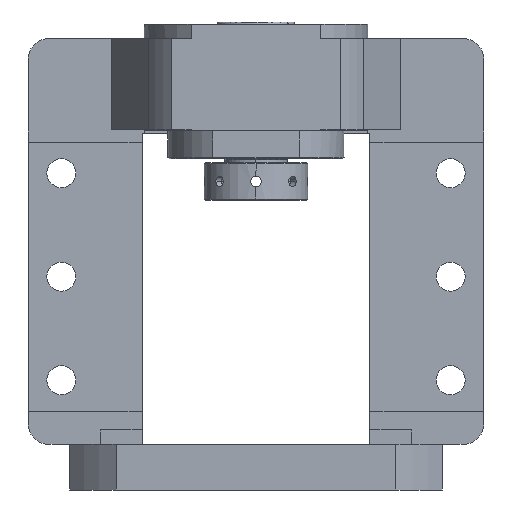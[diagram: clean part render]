
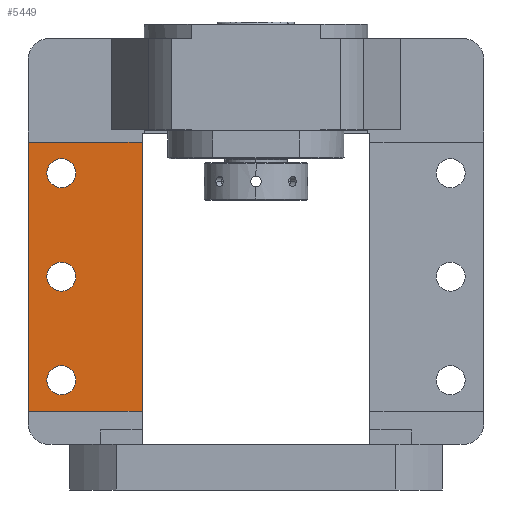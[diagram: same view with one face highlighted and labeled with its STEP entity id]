
A CAD part, front view. The second image highlights one B-rep face of the part: STEP entity #5449.
In plain terms, the highlighted planar face has unit normal (0, -1, 0).
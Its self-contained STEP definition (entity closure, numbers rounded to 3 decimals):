
#104 = CARTESIAN_POINT ( 'NONE',  ( -55., 0., 225. ) ) ;
#266 = CIRCLE ( 'NONE', #5236, 7. ) ;
#300 = CIRCLE ( 'NONE', #850, 7. ) ;
#307 = ORIENTED_EDGE ( 'NONE', *, *, #8331, .F. ) ;
#334 = CARTESIAN_POINT ( 'NONE',  ( -55., 0., 168. ) ) ;
#850 = AXIS2_PLACEMENT_3D ( 'NONE', #12516, #12466, #12363 ) ;
#938 = VERTEX_POINT ( 'NONE', #1914 ) ;
#1258 = CARTESIAN_POINT ( 'NONE',  ( -94., 0., 153. ) ) ;
#1493 = VERTEX_POINT ( 'NONE', #14557 ) ;
#1576 = EDGE_CURVE ( 'NONE', #12386, #8646, #300, .T. ) ;
#1724 = CARTESIAN_POINT ( 'NONE',  ( -110., 0., 168. ) ) ;
#1914 = CARTESIAN_POINT ( 'NONE',  ( -94., 0., 146. ) ) ;
#1949 = EDGE_LOOP ( 'NONE', ( #307, #7253, #12694, #6337 ) ) ;
#2224 = VERTEX_POINT ( 'NONE', #334 ) ;
#2395 = DIRECTION ( 'NONE',  ( 0., 0., -1. ) ) ;
#2596 = VECTOR ( 'NONE', #4661, 1000. ) ;
#2800 = CARTESIAN_POINT ( 'NONE',  ( -94., 0., 53. ) ) ;
#2956 = LINE ( 'NONE', #1724, #14771 ) ;
#2988 = CIRCLE ( 'NONE', #10348, 7. ) ;
#3326 = FACE_BOUND ( 'NONE', #5907, .T. ) ;
#3374 = CARTESIAN_POINT ( 'NONE',  ( -110., 0., 38. ) ) ;
#3986 = EDGE_LOOP ( 'NONE', ( #8921, #13646 ) ) ;
#4030 = FACE_OUTER_BOUND ( 'NONE', #1949, .T. ) ;
#4192 = EDGE_CURVE ( 'NONE', #14730, #8742, #2988, .T. ) ;
#4229 = CIRCLE ( 'NONE', #14183, 7. ) ;
#4295 = LINE ( 'NONE', #13858, #10012 ) ;
#4311 = EDGE_CURVE ( 'NONE', #8646, #12386, #4229, .T. ) ;
#4327 = DIRECTION ( 'NONE',  ( 0., 0., -1. ) ) ;
#4382 = CARTESIAN_POINT ( 'NONE',  ( -94., 0., 53. ) ) ;
#4661 = DIRECTION ( 'NONE',  ( 0., 0., -1. ) ) ;
#5049 = CARTESIAN_POINT ( 'NONE',  ( -110., 0., 38. ) ) ;
#5188 = DIRECTION ( 'NONE',  ( 1., 0., 0. ) ) ;
#5236 = AXIS2_PLACEMENT_3D ( 'NONE', #1258, #9250, #2395 ) ;
#5449 = ADVANCED_FACE ( 'NONE', ( #6371, #9742, #3326, #4030 ), #11097, .F. ) ;
#5543 = DIRECTION ( 'NONE',  ( 0., 0., -1. ) ) ;
#5636 = DIRECTION ( 'NONE',  ( 0., 1., 0. ) ) ;
#5694 = AXIS2_PLACEMENT_3D ( 'NONE', #12697, #5864, #13836 ) ;
#5743 = CARTESIAN_POINT ( 'NONE',  ( -94., 0., 110. ) ) ;
#5793 = AXIS2_PLACEMENT_3D ( 'NONE', #4382, #12380, #5543 ) ;
#5841 = CARTESIAN_POINT ( 'NONE',  ( -94., 0., 46. ) ) ;
#5864 = DIRECTION ( 'NONE',  ( 0., 1., 0. ) ) ;
#5907 = EDGE_LOOP ( 'NONE', ( #10101, #9785 ) ) ;
#6337 = ORIENTED_EDGE ( 'NONE', *, *, #9479, .F. ) ;
#6371 = FACE_BOUND ( 'NONE', #3986, .T. ) ;
#6571 = DIRECTION ( 'NONE',  ( 0., 0., 1. ) ) ;
#6994 = VERTEX_POINT ( 'NONE', #13749 ) ;
#7253 = ORIENTED_EDGE ( 'NONE', *, *, #13648, .T. ) ;
#7362 = VERTEX_POINT ( 'NONE', #5049 ) ;
#8046 = VERTEX_POINT ( 'NONE', #11347 ) ;
#8331 = EDGE_CURVE ( 'NONE', #1493, #2224, #2956, .T. ) ;
#8441 = CIRCLE ( 'NONE', #5694, 7. ) ;
#8640 = AXIS2_PLACEMENT_3D ( 'NONE', #9888, #14503, #6571 ) ;
#8646 = VERTEX_POINT ( 'NONE', #5743 ) ;
#8742 = VERTEX_POINT ( 'NONE', #5841 ) ;
#8921 = ORIENTED_EDGE ( 'NONE', *, *, #1576, .T. ) ;
#8937 = CARTESIAN_POINT ( 'NONE',  ( -94., 0., 60. ) ) ;
#9241 = EDGE_CURVE ( 'NONE', #6994, #7362, #13155, .T. ) ;
#9250 = DIRECTION ( 'NONE',  ( 0., 1., 0. ) ) ;
#9351 = EDGE_CURVE ( 'NONE', #8046, #938, #266, .T. ) ;
#9479 = EDGE_CURVE ( 'NONE', #2224, #6994, #10993, .T. ) ;
#9742 = FACE_BOUND ( 'NONE', #10689, .T. ) ;
#9746 = VECTOR ( 'NONE', #11364, 1000. ) ;
#9785 = ORIENTED_EDGE ( 'NONE', *, *, #9351, .T. ) ;
#9888 = CARTESIAN_POINT ( 'NONE',  ( -110., 0., 225. ) ) ;
#10012 = VECTOR ( 'NONE', #12718, 1000. ) ;
#10101 = ORIENTED_EDGE ( 'NONE', *, *, #11730, .T. ) ;
#10234 = ORIENTED_EDGE ( 'NONE', *, *, #4192, .T. ) ;
#10348 = AXIS2_PLACEMENT_3D ( 'NONE', #2800, #11174, #4327 ) ;
#10689 = EDGE_LOOP ( 'NONE', ( #11782, #10234 ) ) ;
#10993 = LINE ( 'NONE', #104, #2596 ) ;
#11097 = PLANE ( 'NONE',  #8640 ) ;
#11174 = DIRECTION ( 'NONE',  ( 0., 1., 0. ) ) ;
#11347 = CARTESIAN_POINT ( 'NONE',  ( -94., 0., 160. ) ) ;
#11364 = DIRECTION ( 'NONE',  ( -1., 0., 0. ) ) ;
#11730 = EDGE_CURVE ( 'NONE', #938, #8046, #8441, .T. ) ;
#11782 = ORIENTED_EDGE ( 'NONE', *, *, #13449, .T. ) ;
#12363 = DIRECTION ( 'NONE',  ( 0., 0., -1. ) ) ;
#12380 = DIRECTION ( 'NONE',  ( 0., 1., 0. ) ) ;
#12386 = VERTEX_POINT ( 'NONE', #12826 ) ;
#12466 = DIRECTION ( 'NONE',  ( 0., 1., 0. ) ) ;
#12480 = CARTESIAN_POINT ( 'NONE',  ( -94., 0., 103. ) ) ;
#12516 = CARTESIAN_POINT ( 'NONE',  ( -94., 0., 103. ) ) ;
#12694 = ORIENTED_EDGE ( 'NONE', *, *, #9241, .F. ) ;
#12697 = CARTESIAN_POINT ( 'NONE',  ( -94., 0., 153. ) ) ;
#12718 = DIRECTION ( 'NONE',  ( 0., 0., -1. ) ) ;
#12826 = CARTESIAN_POINT ( 'NONE',  ( -94., 0., 96. ) ) ;
#13155 = LINE ( 'NONE', #3374, #9746 ) ;
#13243 = CIRCLE ( 'NONE', #5793, 7. ) ;
#13449 = EDGE_CURVE ( 'NONE', #8742, #14730, #13243, .T. ) ;
#13617 = DIRECTION ( 'NONE',  ( 0., 0., -1. ) ) ;
#13646 = ORIENTED_EDGE ( 'NONE', *, *, #4311, .T. ) ;
#13648 = EDGE_CURVE ( 'NONE', #1493, #7362, #4295, .T. ) ;
#13749 = CARTESIAN_POINT ( 'NONE',  ( -55., 0., 38. ) ) ;
#13836 = DIRECTION ( 'NONE',  ( 0., 0., -1. ) ) ;
#13858 = CARTESIAN_POINT ( 'NONE',  ( -110., 0., 225. ) ) ;
#14183 = AXIS2_PLACEMENT_3D ( 'NONE', #12480, #5636, #13617 ) ;
#14503 = DIRECTION ( 'NONE',  ( 0., 1., 0. ) ) ;
#14557 = CARTESIAN_POINT ( 'NONE',  ( -110., 0., 168. ) ) ;
#14730 = VERTEX_POINT ( 'NONE', #8937 ) ;
#14771 = VECTOR ( 'NONE', #5188, 1000. ) ;
